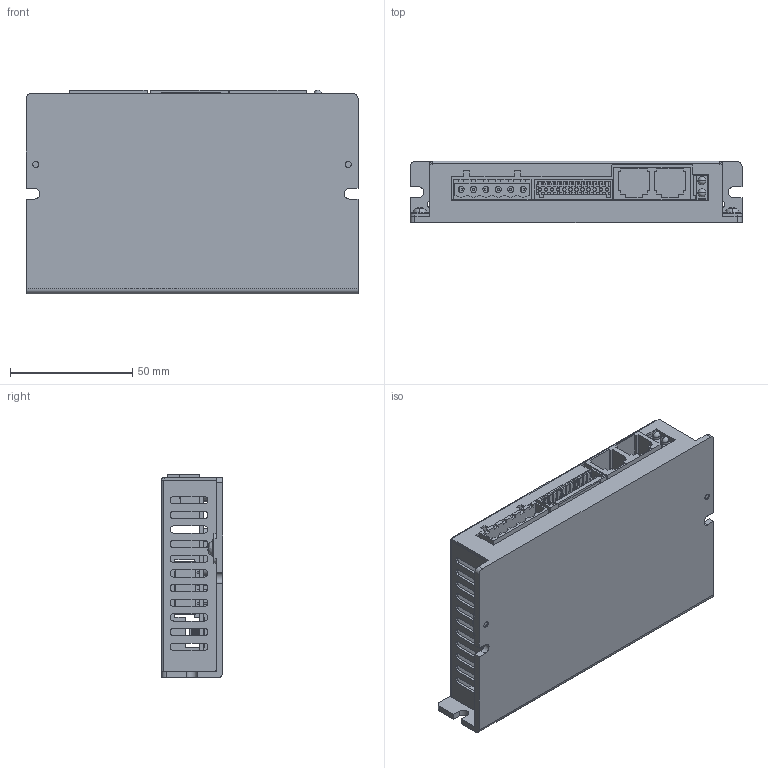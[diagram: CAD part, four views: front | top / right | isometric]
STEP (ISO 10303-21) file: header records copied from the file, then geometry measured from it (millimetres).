
FILE_DESCRIPTION((''),'2;1');
FILE_NAME('YKE2405PR_ASM','2021-11-18T19:52:20',('Admin'),(''),'CREO PARAMETRIC BY PTC INC, 2020074','CREO PARAMETRIC BY PTC INC, 2020074','');
FILE_SCHEMA(('CONFIG_CONTROL_DESIGN','SHAPE_APPEARANCE_LAYERS_GROUPS'));
Length unit declared in the file: millimetre
Products named in the file (1): YKE2405PR_ASM
Bounding box: 136 x 25 x 83.4 mm (x, y, z)
Volume: 72968.5 mm3; surface area: 84985.5 mm2
Topology: 1 solids, 1 shells, 1550 faces, 4294 edges, 2822 vertices
Faces by surface type: plane 1210, cylinder 310, cone 12, bspline 10, sphere 8
Entity records: 59957 total; most frequent: CARTESIAN_POINT 9235, ORIENTED_EDGE 8572, DIRECTION 8019, EDGE_CURVE 4286, VECTOR 3543, LINE 3543, VERTEX_POINT 2826, AXIS2_PLACEMENT_3D 2238
